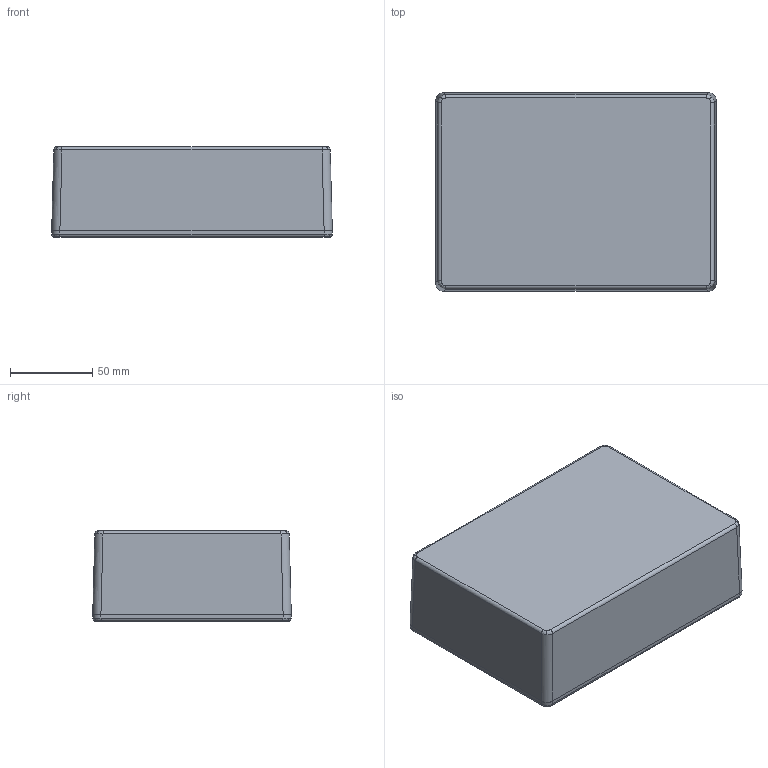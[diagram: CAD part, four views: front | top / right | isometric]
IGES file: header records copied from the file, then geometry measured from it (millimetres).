
Global section: file name: 1550E.iam; native system: Autodesk Inventor 2014; preprocessor: unknown; author: fwarzocha; date: 20141029.101326; units: millimetre
Bounding box: 171 x 121 x 55.1 mm (x, y, z)
Volume: 153807.7 mm3; surface area: 144221.2 mm2
Topology: 8 solids, 8 shells, 1043 faces, 2828 edges, 1850 vertices
Faces by surface type: plane 413, bspline 370, revolution 172, cylinder 50, cone 38
Full cylindrical faces by diameter (mm): 3.43 x6
